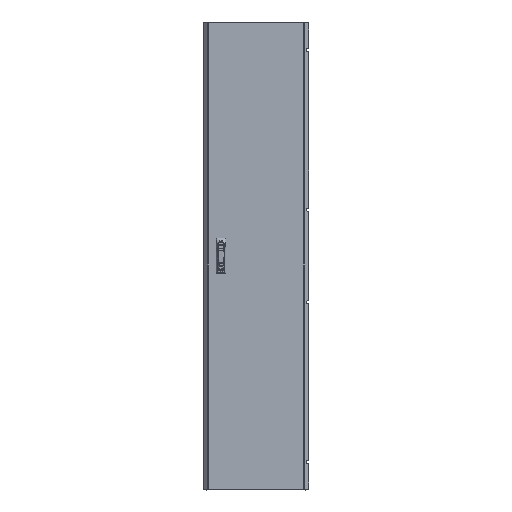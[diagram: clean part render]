
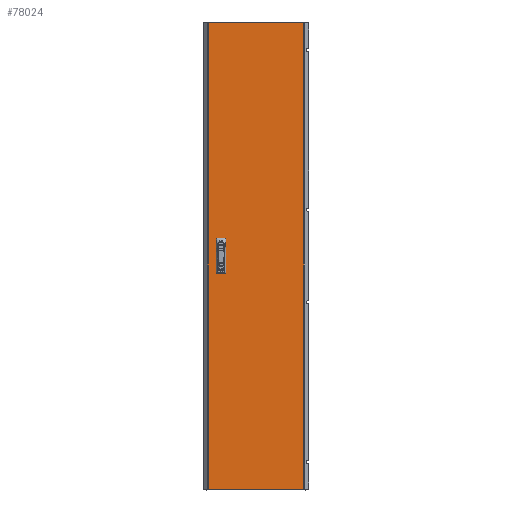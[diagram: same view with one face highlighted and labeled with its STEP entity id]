
A CAD part, top view. The second image highlights one B-rep face of the part: STEP entity #78024.
In plain terms, the highlighted planar face has unit normal (0, 0, 1).
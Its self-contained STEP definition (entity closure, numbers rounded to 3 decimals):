
#756 = CARTESIAN_POINT ( 'NONE',  ( -177.875, 869.5, 0. ) ) ;
#1325 = CARTESIAN_POINT ( 'NONE',  ( -117.5, -62.5, 0. ) ) ;
#4888 = VECTOR ( 'NONE', #102055, 1000. ) ;
#6978 = VERTEX_POINT ( 'NONE', #27680 ) ;
#7171 = ORIENTED_EDGE ( 'NONE', *, *, #122339, .F. ) ;
#7663 = VECTOR ( 'NONE', #35381, 1000. ) ;
#9832 = DIRECTION ( 'NONE',  ( 0., 1., 0. ) ) ;
#11182 = VECTOR ( 'NONE', #126589, 1000. ) ;
#15028 = CARTESIAN_POINT ( 'NONE',  ( -142.5, -12.5, 0. ) ) ;
#15603 = CARTESIAN_POINT ( 'NONE',  ( -117.5, 62.5, 0. ) ) ;
#17955 = ORIENTED_EDGE ( 'NONE', *, *, #114491, .F. ) ;
#18858 = CARTESIAN_POINT ( 'NONE',  ( -142.5, 62.5, 0. ) ) ;
#19023 = EDGE_CURVE ( 'NONE', #103434, #64207, #53559, .T. ) ;
#19346 = VECTOR ( 'NONE', #90674, 1000. ) ;
#19442 = CARTESIAN_POINT ( 'NONE',  ( -142.5, -62.5, 0. ) ) ;
#20767 = VERTEX_POINT ( 'NONE', #134178 ) ;
#21997 = CARTESIAN_POINT ( 'NONE',  ( 0., 0., 0. ) ) ;
#26764 = CARTESIAN_POINT ( 'NONE',  ( -142.5, 12.5, 0. ) ) ;
#26943 = LINE ( 'NONE', #81009, #81723 ) ;
#27680 = CARTESIAN_POINT ( 'NONE',  ( -117.5, 12.5, 0. ) ) ;
#30550 = VERTEX_POINT ( 'NONE', #52827 ) ;
#31830 = FACE_OUTER_BOUND ( 'NONE', #49319, .T. ) ;
#32177 = VERTEX_POINT ( 'NONE', #756 ) ;
#33864 = EDGE_LOOP ( 'NONE', ( #17955, #125093, #138870, #96738 ) ) ;
#35370 = DIRECTION ( 'NONE',  ( 0., -1., 0. ) ) ;
#35381 = DIRECTION ( 'NONE',  ( -1., 0., 0. ) ) ;
#37371 = EDGE_CURVE ( 'NONE', #32177, #30550, #45246, .T. ) ;
#38558 = VECTOR ( 'NONE', #129790, 1000. ) ;
#39226 = CARTESIAN_POINT ( 'NONE',  ( 177.875, -869.5, 0. ) ) ;
#39821 = DIRECTION ( 'NONE',  ( 1., 0., 0. ) ) ;
#42795 = LINE ( 'NONE', #75084, #68460 ) ;
#45246 = LINE ( 'NONE', #99325, #60183 ) ;
#45555 = LINE ( 'NONE', #1325, #38558 ) ;
#45733 = LINE ( 'NONE', #120825, #120869 ) ;
#49148 = AXIS2_PLACEMENT_3D ( 'NONE', #21997, #109050, #74662 ) ;
#49319 = EDGE_LOOP ( 'NONE', ( #66485, #78710, #77459, #119442 ) ) ;
#52827 = CARTESIAN_POINT ( 'NONE',  ( -177.875, -869.5, 0. ) ) ;
#53559 = LINE ( 'NONE', #93655, #11182 ) ;
#56566 = VERTEX_POINT ( 'NONE', #96145 ) ;
#57399 = DIRECTION ( 'NONE',  ( 0., 1., 0. ) ) ;
#60183 = VECTOR ( 'NONE', #35370, 1000. ) ;
#62070 = FACE_BOUND ( 'NONE', #33864, .T. ) ;
#63056 = VECTOR ( 'NONE', #57399, 1000. ) ;
#64207 = VERTEX_POINT ( 'NONE', #135764 ) ;
#66485 = ORIENTED_EDGE ( 'NONE', *, *, #96718, .T. ) ;
#67597 = CARTESIAN_POINT ( 'NONE',  ( -142.5, 62.5, 0. ) ) ;
#68460 = VECTOR ( 'NONE', #9832, 1000. ) ;
#68781 = EDGE_CURVE ( 'NONE', #20767, #103434, #132961, .T. ) ;
#69087 = DIRECTION ( 'NONE',  ( 0., -1., 0. ) ) ;
#71366 = EDGE_CURVE ( 'NONE', #93500, #56566, #26943, .T. ) ;
#74662 = DIRECTION ( 'NONE',  ( -1., 0., 0. ) ) ;
#75084 = CARTESIAN_POINT ( 'NONE',  ( -117.5, 12.5, 0. ) ) ;
#77459 = ORIENTED_EDGE ( 'NONE', *, *, #37371, .T. ) ;
#78024 = ADVANCED_FACE ( 'NONE', ( #62070, #128000, #31830 ), #95084, .F. ) ;
#78128 = LINE ( 'NONE', #67597, #117317 ) ;
#78710 = ORIENTED_EDGE ( 'NONE', *, *, #112019, .T. ) ;
#79407 = DIRECTION ( 'NONE',  ( 1., 0., 0. ) ) ;
#79451 = LINE ( 'NONE', #26764, #19346 ) ;
#81009 = CARTESIAN_POINT ( 'NONE',  ( -142.5, 12.5, 0. ) ) ;
#81723 = VECTOR ( 'NONE', #69087, 1000. ) ;
#84257 = VERTEX_POINT ( 'NONE', #15603 ) ;
#84784 = CARTESIAN_POINT ( 'NONE',  ( -142.5, -12.5, 0. ) ) ;
#86977 = EDGE_LOOP ( 'NONE', ( #107416, #135257, #7171, #97816 ) ) ;
#88311 = VECTOR ( 'NONE', #39821, 1000. ) ;
#90674 = DIRECTION ( 'NONE',  ( 1., 0., 0. ) ) ;
#92875 = LINE ( 'NONE', #135659, #4888 ) ;
#93500 = VERTEX_POINT ( 'NONE', #18858 ) ;
#93655 = CARTESIAN_POINT ( 'NONE',  ( -142.5, -62.5, 0. ) ) ;
#94155 = EDGE_CURVE ( 'NONE', #30550, #98710, #45733, .T. ) ;
#95084 = PLANE ( 'NONE',  #49148 ) ;
#96145 = CARTESIAN_POINT ( 'NONE',  ( -142.5, 12.5, 0. ) ) ;
#96228 = VERTEX_POINT ( 'NONE', #132857 ) ;
#96718 = EDGE_CURVE ( 'NONE', #98710, #134230, #99588, .T. ) ;
#96738 = ORIENTED_EDGE ( 'NONE', *, *, #71366, .F. ) ;
#97816 = ORIENTED_EDGE ( 'NONE', *, *, #19023, .F. ) ;
#98710 = VERTEX_POINT ( 'NONE', #39226 ) ;
#99325 = CARTESIAN_POINT ( 'NONE',  ( -177.875, -869.5, 0. ) ) ;
#99588 = LINE ( 'NONE', #111471, #63056 ) ;
#102055 = DIRECTION ( 'NONE',  ( -1., 0., 0. ) ) ;
#103434 = VERTEX_POINT ( 'NONE', #84784 ) ;
#107416 = ORIENTED_EDGE ( 'NONE', *, *, #68781, .F. ) ;
#109050 = DIRECTION ( 'NONE',  ( 0., 0., -1. ) ) ;
#111471 = CARTESIAN_POINT ( 'NONE',  ( 177.875, -869.5, 0. ) ) ;
#112019 = EDGE_CURVE ( 'NONE', #134230, #32177, #92875, .T. ) ;
#112583 = EDGE_CURVE ( 'NONE', #96228, #20767, #45555, .T. ) ;
#113775 = CARTESIAN_POINT ( 'NONE',  ( 177.875, 869.5, 0. ) ) ;
#114491 = EDGE_CURVE ( 'NONE', #84257, #93500, #78128, .T. ) ;
#117317 = VECTOR ( 'NONE', #132157, 1000. ) ;
#119442 = ORIENTED_EDGE ( 'NONE', *, *, #94155, .T. ) ;
#120825 = CARTESIAN_POINT ( 'NONE',  ( -177.875, -869.5, 0. ) ) ;
#120869 = VECTOR ( 'NONE', #79407, 1000. ) ;
#122339 = EDGE_CURVE ( 'NONE', #64207, #96228, #136687, .T. ) ;
#124241 = EDGE_CURVE ( 'NONE', #6978, #84257, #42795, .T. ) ;
#125093 = ORIENTED_EDGE ( 'NONE', *, *, #124241, .F. ) ;
#126589 = DIRECTION ( 'NONE',  ( 0., -1., 0. ) ) ;
#127939 = EDGE_CURVE ( 'NONE', #56566, #6978, #79451, .T. ) ;
#128000 = FACE_BOUND ( 'NONE', #86977, .T. ) ;
#129790 = DIRECTION ( 'NONE',  ( 0., 1., 0. ) ) ;
#132157 = DIRECTION ( 'NONE',  ( -1., 0., 0. ) ) ;
#132857 = CARTESIAN_POINT ( 'NONE',  ( -117.5, -62.5, 0. ) ) ;
#132961 = LINE ( 'NONE', #15028, #7663 ) ;
#134178 = CARTESIAN_POINT ( 'NONE',  ( -117.5, -12.5, 0. ) ) ;
#134230 = VERTEX_POINT ( 'NONE', #113775 ) ;
#135257 = ORIENTED_EDGE ( 'NONE', *, *, #112583, .F. ) ;
#135659 = CARTESIAN_POINT ( 'NONE',  ( -177.875, 869.5, 0. ) ) ;
#135764 = CARTESIAN_POINT ( 'NONE',  ( -142.5, -62.5, 0. ) ) ;
#136687 = LINE ( 'NONE', #19442, #88311 ) ;
#138870 = ORIENTED_EDGE ( 'NONE', *, *, #127939, .F. ) ;
